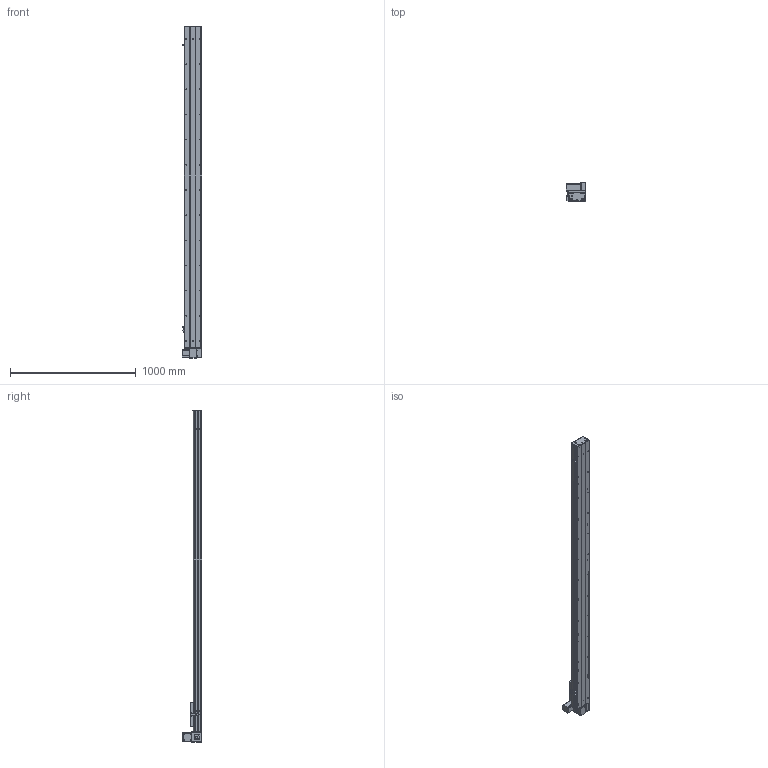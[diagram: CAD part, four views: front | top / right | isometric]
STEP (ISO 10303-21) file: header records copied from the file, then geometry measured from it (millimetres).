
FILE_DESCRIPTION (( 'STEP AP203' ), '1' );
FILE_NAME ('Y135CB-D90-S2250-UL-P400W.STEP', '2020-02-18T07:58:45', ( '微软用户' ), ( '微软中国' ), 'SwSTEP 2.0', 'SolidWorks 2017', '' );
FILE_SCHEMA (( 'CONFIG_CONTROL_DESIGN' ));
Length unit declared in the file: millimetre
Products named in the file (18): Y100-135俋离換覜ん--; 35CB---喘謫眊楊擘啣; Y135C-陔俋离換覜結え-; 0B-埴倛裔啣; 5C--俋欶; 0B-源倛裔啣; C-雄赽釱--; 0B-萇儂楊擘啣; Y10B-耜蚾蟀諉啣----; san松下电机400不带刹车----; 00B-俋欶BM--; 135CB---遴掛极.-; 5CB --掛极耜裔啣-; Y10B--々湍喘謫眊--666; C-詩湍揤踡え-陔; Y135CB-耜裔; Y135CB-D90-S2250-UL-P400W; 135CB--詩湍-CE
Assembly tree (21 placements, depth 2):
  Y135CB-D90-S2250-UL-P400W
    Y135CB-耜裔
    135CB---遴掛极.-
    35CB---喘謫眊楊擘啣
    0B-埴倛裔啣
    0B-源倛裔啣
    0B-萇儂楊擘啣
    san松下电机400不带刹车----
    5CB --掛极耜裔啣-  x2
    C-詩湍揤踡え-陔  x2
    135CB--詩湍-CE
    Y100-135俋离換覜ん--  x3
    Y135C-陔俋离換覜結え-
    5C--俋欶
    C-雄赽釱--
    Y10B-耜蚾蟀諉啣----
    00B-俋欶BM--
    Y10B--々湍喘謫眊--666
Bounding box: 157 x 158.7 x 2638 mm (x, y, z)
Volume: 7632648.7 mm3; surface area: 3019346.9 mm2
Topology: 21 solids, 21 shells, 969 faces, 2635 edges, 1746 vertices
Faces by surface type: cylinder 497, plane 456, cone 16
Entity records: 30561 total; most frequent: DIRECTION 5079, CARTESIAN_POINT 5076, ORIENTED_EDGE 4746, EDGE_CURVE 2373, AXIS2_PLACEMENT_3D 1861, VERTEX_POINT 1574, VECTOR 1357, LINE 1357
